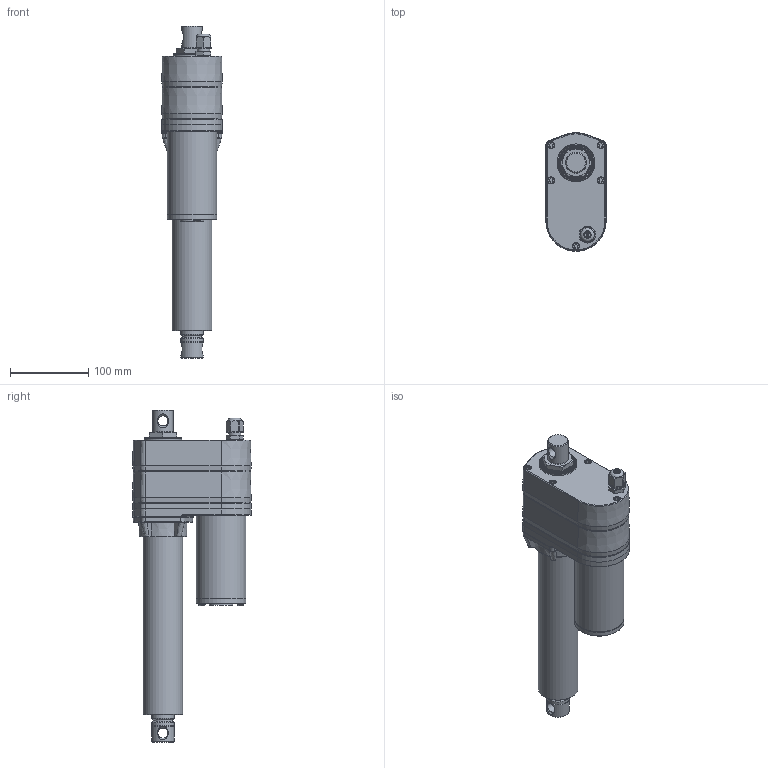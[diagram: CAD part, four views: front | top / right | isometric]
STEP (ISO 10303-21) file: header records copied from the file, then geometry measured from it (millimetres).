
FILE_DESCRIPTION (( 'STEP AP203' ), '1' );
FILE_NAME ('ID10II-B-With LT or LT+POT-102.STEP', '2014-06-10T09:37:26', ( '' ), ( '' ), 'SwSTEP 2.0', 'SolidWorks 2013', '' );
FILE_SCHEMA (( 'CONFIG_CONTROL_DESIGN' ));
Length unit declared in the file: millimetre
Products named in the file (3): ID10II-B-With LT or LT+POT-102; ID10II-B-With LT or LT+POT-102-1; ID10II-B-With LT or LT+POT-102-2
Assembly tree (2 placements, depth 2):
  ID10II-B-With LT or LT+POT-102
    ID10II-B-With LT or LT+POT-102-1
    ID10II-B-With LT or LT+POT-102-2
Bounding box: 77.15 x 151.65 x 424.7 mm (x, y, z)
Volume: 1992179.2 mm3; surface area: 165887.3 mm2
Topology: 2 solids, 2 shells, 868 faces, 2263 edges, 1441 vertices
Faces by surface type: plane 549, cylinder 160, torus 66, bspline 46, cone 45, sphere 2
Full cylindrical faces by diameter (mm): 0.05 x1, 1.6 x2, 7.2 x1, 8.5 x7, 9 x5, 13 x2, 15.75 x2, 21.6 x1, 26 x1, 28 x1, 28.1 x1, 28.6 x4, 28.62 x1, 30 x1, 48.2 x1, 50.8 x1, 63 x1, 63.5 x2
Entity records: 28815 total; most frequent: CARTESIAN_POINT 9427, ORIENTED_EDGE 4356, DIRECTION 3592, EDGE_CURVE 2178, VERTEX_POINT 1418, AXIS2_PLACEMENT_3D 1319, EDGE_LOOP 976, LINE 954
